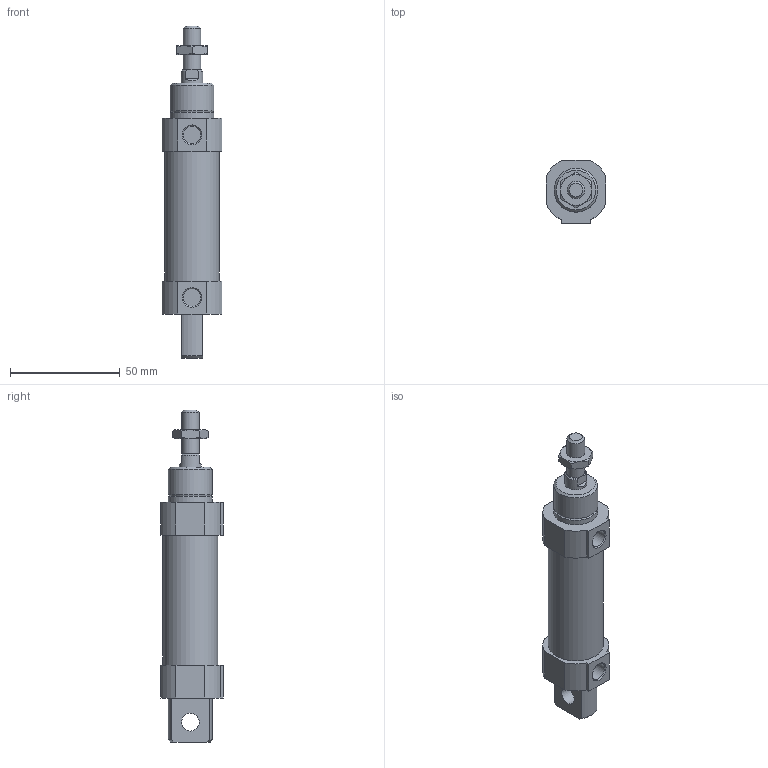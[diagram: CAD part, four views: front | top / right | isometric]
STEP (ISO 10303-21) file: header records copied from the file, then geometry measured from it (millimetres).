
FILE_DESCRIPTION((''),'2;1');
FILE_NAME('I:\3D電子目錄\氣缸\FDA\FDA\FDA\FDA20\FDA20x25.stp','2007-10-16T09:48:59',('66-2f-008'),(''),'Autodesk Inventor 11','Autodesk Inventor 11','');
FILE_SCHEMA(('AUTOMOTIVE_DESIGN { 1 0 10303 214 1 1 1 1 }'));
Length unit declared in the file: millimetre
Products named in the file (1): FDA20
Bounding box: 27 x 28.5 x 151 mm (x, y, z)
Volume: 58543.3 mm3; surface area: 12822.2 mm2
Topology: 1 solids, 1 shells, 77 faces, 178 edges, 112 vertices
Faces by surface type: plane 37, cone 20, cylinder 19, torus 1
Full cylindrical faces by diameter (mm): 8 x5, 10 x1, 20 x2, 25 x1
Entity records: 2081 total; most frequent: CARTESIAN_POINT 414, DIRECTION 348, ORIENTED_EDGE 324, EDGE_CURVE 162, AXIS2_PLACEMENT_3D 140, VERTEX_POINT 110, EDGE_LOOP 102, FACE_OUTER_BOUND 77
